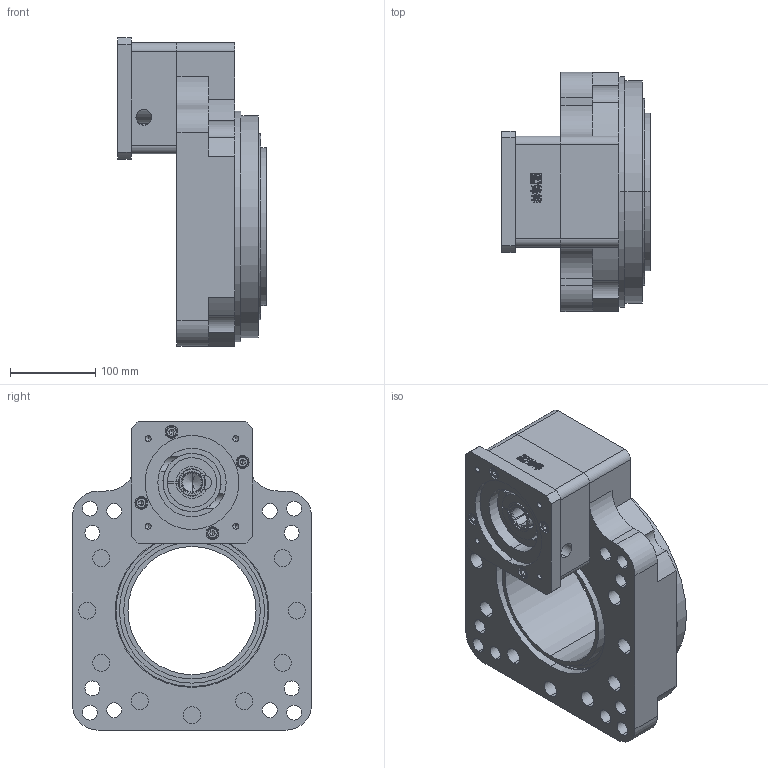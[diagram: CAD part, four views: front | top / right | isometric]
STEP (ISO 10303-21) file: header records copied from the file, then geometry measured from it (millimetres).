
FILE_DESCRIPTION (( 'STEP AP214' ), '1' );
FILE_NAME ('DG280-10.STEP', '2021-04-23T05:25:19', ( 'Microsoft' ), ( 'Microsoft China' ), 'SwSTEP 2.0', 'SolidWorks 2016', '' );
FILE_SCHEMA (( 'AUTOMOTIVE_DESIGN' ));
Length unit declared in the file: millimetre
Products named in the file (1): DG280-10
Bounding box: 174.35 x 280 x 361 mm (x, y, z)
Volume: 6361674.5 mm3; surface area: 564320.3 mm2
Topology: 56 solids, 56 shells, 2516 faces, 6153 edges, 3824 vertices
Faces by surface type: plane 1508, cylinder 511, cone 329, torus 108, bspline 60
Entity records: 80292 total; most frequent: CARTESIAN_POINT 13342, DIRECTION 12668, ORIENTED_EDGE 11990, EDGE_CURVE 5995, AXIS2_PLACEMENT_3D 4364, VECTOR 3940, LINE 3940, VERTEX_POINT 3824
